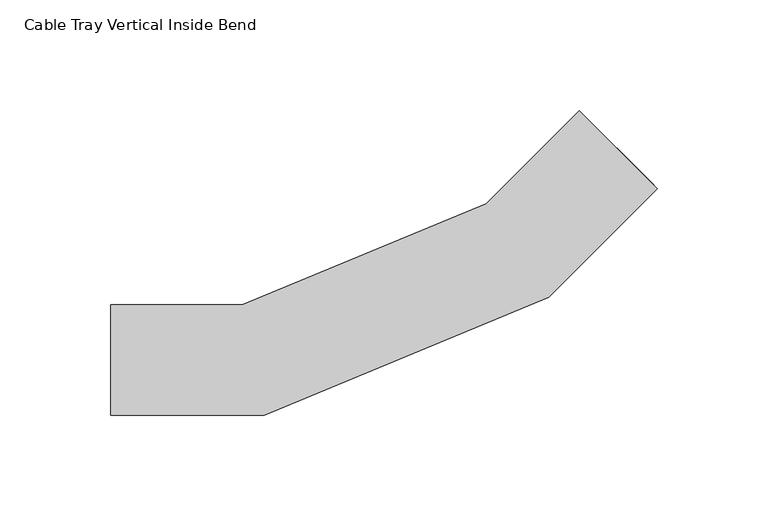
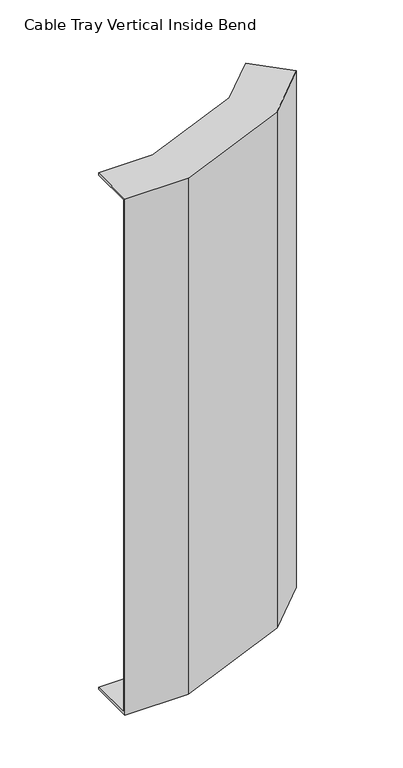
"""IFC4 building model written with IfcOpenShell, lengths in millimetres: cable carrier fitting geometry, Cable Tray Vertical Inside Bend : ELEC_SUB_CT_N2402."""

from ifc_helpers import new_model, si_unit, origin, place, context, project, spatial, faceted_brep, source, transform, mapped, element, save


def cable_tray_vertical_inside_bend_1594799f(model_context):
    return source(origin(), model_context, "Body", "Brep", [
        faceted_brep([(-134.6194078, 25.0, 300.0), (-134.6194078, 25.0, 297.46), (-134.6194078, -22.46, 297.46), (-134.6194078, -22.46, -297.46), (-134.6194078, 25.0, -297.46), (-134.6194078, 25.0, -300.0), (-134.6194078, -25.0, -300.0), (-134.6194078, -25.0, 300.0), (77.5126266, 112.8679656, 300.0), (112.8679656, 77.5126266, 300.0), (112.8679656, 77.5126266, -300.0), (77.5126266, 112.8679656, -300.0), (77.5126266, 112.8679656, -297.46), (111.0719144, 79.3086778, -297.46), (111.0719144, 79.3086778, 297.46), (77.5126266, 112.8679656, 297.46), (-74.9456976, 25.0, 300.0), (-74.9456976, 25.0, 297.46), (35.3169414, 70.6722805, 297.46), (62.2008719, 30.4376353, 297.46), (-65.5053166, -22.46, 297.46), (-65.5053166, -22.46, -297.46), (62.2008719, 30.4376353, -297.46), (35.3169414, 70.6722805, -297.46), (-74.9456976, 25.0, -297.46), (-74.9456976, 25.0, -300.0), (35.3169414, 70.6722805, -300.0), (63.6396663, 28.2843272, -300.0), (-65.0000792, -25.0, -300.0), (-65.0000792, -25.0, 300.0), (63.6396663, 28.2843272, 300.0), (35.3169414, 70.6722805, 300.0)], [[[0, 1, 2, 3, 4, 5, 6, 7]], [[8, 9, 10, 11, 12, 13, 14, 15]], [[1, 0, 16, 17]], [[2, 1, 17, 18, 15, 14, 19, 20]], [[3, 2, 20, 21]], [[4, 3, 21, 22, 13, 12, 23, 24]], [[5, 4, 24, 25]], [[6, 5, 25, 26, 11, 10, 27, 28]], [[7, 6, 28, 29]], [[0, 7, 29, 30, 9, 8, 31, 16]], [[17, 16, 31, 18]], [[21, 20, 19, 22]], [[25, 24, 23, 26]], [[29, 28, 27, 30]], [[18, 31, 8, 15]], [[22, 19, 14, 13]], [[26, 23, 12, 11]], [[30, 27, 10, 9]]]),
    ])


if __name__ == "__main__":
    model = new_model("IFC4")
    model_context = context("Model", 3, world=origin())
    ifc_project = project(units=[si_unit("LENGTHUNIT", "METRE", prefix="MILLI")], contexts=[model_context])
    site = spatial("IfcSite", under=ifc_project)
    building = spatial("IfcBuilding", under=site)
    placement = place(None, origin())
    cable_tray_vertical_inside_bend_shape = cable_tray_vertical_inside_bend_1594799f(model_context)
    element("IfcCableCarrierFitting", 1, ObjectType="Cable Tray Vertical Inside Bend : ELEC_SUB_CT_N2402", at=placement, inside=building, context=model_context, shape_type="MappedRepresentation", body=[
        mapped(cable_tray_vertical_inside_bend_shape, transform((0.0, 0.0, 0.0), x_axis=(1.0, 0.0, 0.0), y_axis=(0.0, 1.0, 0.0), z_axis=(0.0, 0.0, 1.0))),
    ])
    save(model, "model.ifc")
